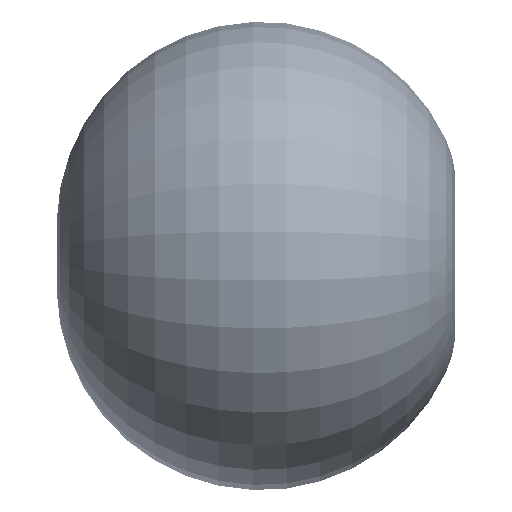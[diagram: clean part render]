
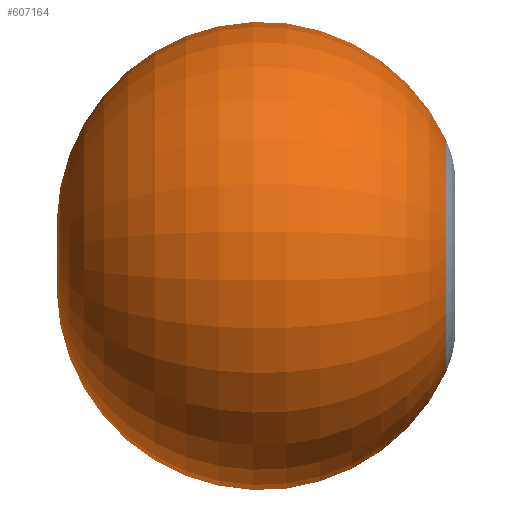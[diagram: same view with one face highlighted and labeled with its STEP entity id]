
A CAD part, left-side view. The second image highlights one B-rep face of the part: STEP entity #607164.
In plain terms, the highlighted toroidal (fillet/blend) face has major radius 217 mm and minor radius 1485 mm.
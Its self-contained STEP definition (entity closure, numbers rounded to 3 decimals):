
#60938 = CARTESIAN_POINT ( 'NONE',  ( 0., -900.867, -844.588 ) ) ;
#88296 = CARTESIAN_POINT ( 'NONE',  ( 0., -900.867, 844.588 ) ) ;
#143455 = VERTEX_POINT ( 'NONE', #1012006 ) ;
#272872 = CARTESIAN_POINT ( 'NONE',  ( 0., 445., 0. ) ) ;
#272988 = FACE_OUTER_BOUND ( 'NONE', #975084, .T. ) ;
#272998 = DIRECTION ( 'NONE',  ( 0., -1., 0. ) ) ;
#273026 = DIRECTION ( 'NONE',  ( 0., 0., -1. ) ) ;
#284814 = TOROIDAL_SURFACE ( 'NONE', #284823, 217., 1485. ) ;
#284823 = AXIS2_PLACEMENT_3D ( 'NONE', #272872, #272998, #273026 ) ;
#574976 = CIRCLE ( 'NONE', #575009, 1485. ) ;
#575009 = AXIS2_PLACEMENT_3D ( 'NONE', #911579, #911590, #911599 ) ;
#607164 = ADVANCED_FACE ( 'NONE', ( #272988 ), #284814, .T. ) ;
#651121 = VERTEX_POINT ( 'NONE', #60938 ) ;
#651570 = VERTEX_POINT ( 'NONE', #88296 ) ;
#730592 = ORIENTED_EDGE ( 'NONE', *, *, #1213828, .F. ) ;
#730611 = ORIENTED_EDGE ( 'NONE', *, *, #1216099, .F. ) ;
#731025 = ORIENTED_EDGE ( 'NONE', *, *, #1215936, .T. ) ;
#911579 = CARTESIAN_POINT ( 'NONE',  ( 0., 445., 217. ) ) ;
#911590 = DIRECTION ( 'NONE',  ( 1., 0., 0. ) ) ;
#911599 = DIRECTION ( 'NONE',  ( 0., 0., -1. ) ) ;
#975084 = EDGE_LOOP ( 'NONE', ( #730592, #731025, #730611 ) ) ;
#984176 = CARTESIAN_POINT ( 'NONE',  ( 0., 445., -217. ) ) ;
#984183 = DIRECTION ( 'NONE',  ( -1., 0., 0. ) ) ;
#984189 = DIRECTION ( 'NONE',  ( 0., 0., 1. ) ) ;
#989332 = AXIS2_PLACEMENT_3D ( 'NONE', #984176, #984183, #984189 ) ;
#989342 = CIRCLE ( 'NONE', #989332, 1485. ) ;
#990869 = AXIS2_PLACEMENT_3D ( 'NONE', #1021271, #1021277, #1021287 ) ;
#990878 = CIRCLE ( 'NONE', #990869, 844.588 ) ;
#1012006 = CARTESIAN_POINT ( 'NONE',  ( 0., 1914.06, 0. ) ) ;
#1021271 = CARTESIAN_POINT ( 'NONE',  ( 0., -900.867, 0. ) ) ;
#1021277 = DIRECTION ( 'NONE',  ( 0., -1., 0. ) ) ;
#1021287 = DIRECTION ( 'NONE',  ( 0., 0., -1. ) ) ;
#1213828 = EDGE_CURVE ( 'NONE', #143455, #651570, #574976, .T. ) ;
#1215936 = EDGE_CURVE ( 'NONE', #143455, #651121, #989342, .T. ) ;
#1216099 = EDGE_CURVE ( 'NONE', #651570, #651121, #990878, .T. ) ;
